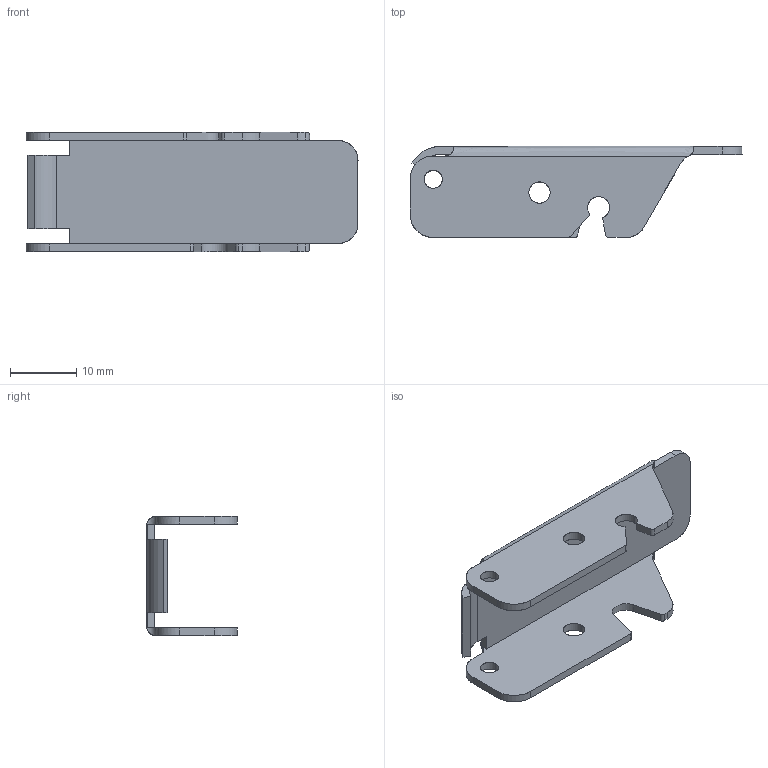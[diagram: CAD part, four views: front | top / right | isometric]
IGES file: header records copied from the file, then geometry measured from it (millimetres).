
Start section: SolidWorks IGES FILE using analytic representation for surfaces
Global section: file name: C:\Documents and Settings\lecoutey\Bureau\GP 2029\2029.010.010.IGS; native system: SolidWorks 2004 by SolidWorks Corporation; preprocessor: Version 5.3; author: lecoutey; date: 050329.160354; units: millimetre
Bounding box: 50 x 13.7 x 18 mm (x, y, z)
Surface area: 3621.8 mm2 (no closed solid volume)
Topology: 0 solids, 0 shells, 64 faces, 893 edges, 893 vertices
Faces by surface type: revolution 34, bspline 30
